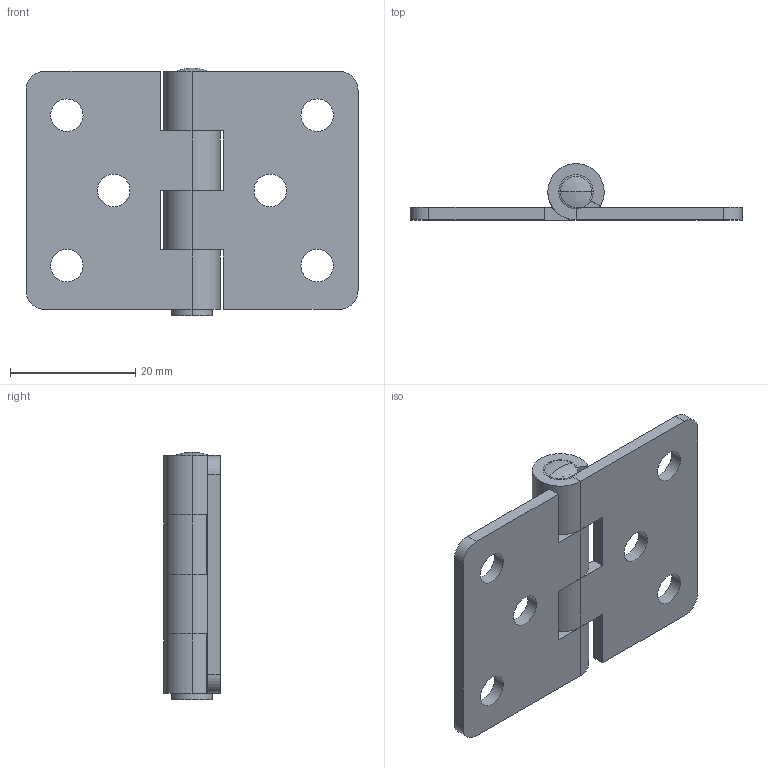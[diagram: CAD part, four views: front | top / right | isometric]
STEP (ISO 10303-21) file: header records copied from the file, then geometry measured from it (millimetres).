
FILE_DESCRIPTION (( 'STEP AP214' ), '1' );
FILE_NAME ('SK2-1520.STEP', '2020-03-24T05:21:37', ( 'admin' ), ( 'Microsoft' ), 'SwSTEP 2.0', 'SolidWorks 2018', '' );
FILE_SCHEMA (( 'AUTOMOTIVE_DESIGN' ));
Length unit declared in the file: millimetre
Products named in the file (3): 2-1520-F2; 2-1520-F1; SK2-1520
Assembly tree (3 placements, depth 2):
  SK2-1520
    2-1520-F1  x2
    2-1520-F2
Bounding box: 53 x 9 x 39.5 mm (x, y, z)
Volume: 5290.1 mm3; surface area: 6396.4 mm2
Topology: 3 solids, 3 shells, 81 faces, 204 edges, 131 vertices
Faces by surface type: cylinder 44, plane 35, sphere 2
Entity records: 1470 total; most frequent: DIRECTION 264, CARTESIAN_POINT 232, ORIENTED_EDGE 220, EDGE_CURVE 110, AXIS2_PLACEMENT_3D 103, VERTEX_POINT 71, LINE 58, VECTOR 58
